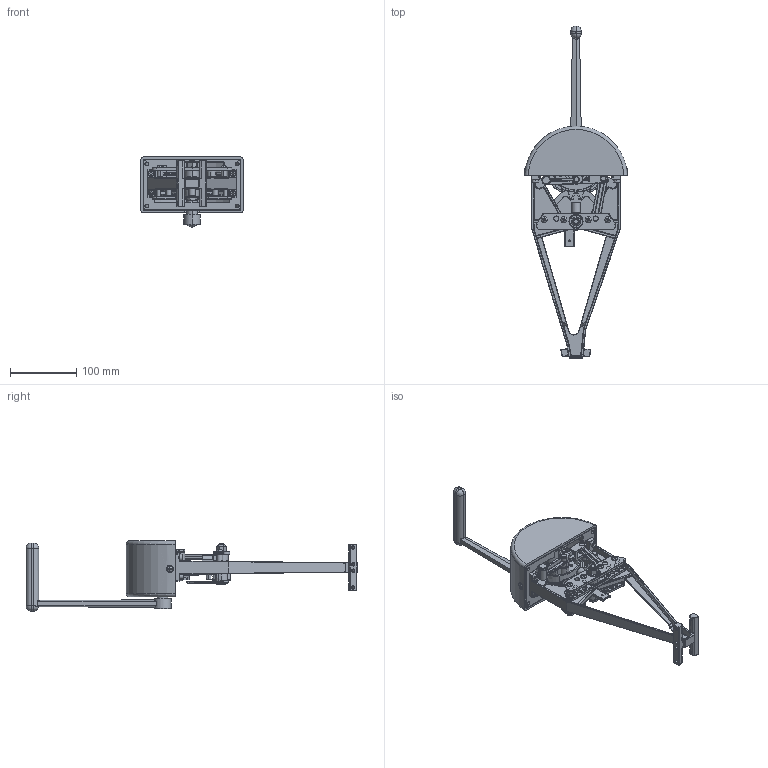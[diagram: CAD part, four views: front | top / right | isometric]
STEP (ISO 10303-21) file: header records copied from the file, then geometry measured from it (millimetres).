
FILE_DESCRIPTION (( 'STEP AP203' ), '1' );
FILE_NAME ('2046-KY.STEP', '2024-05-16T19:49:40', ( '' ), ( '' ), 'SwSTEP 2.0', 'SolidWorks 2023', '' );
FILE_SCHEMA (( 'CONFIG_CONTROL_DESIGN' ));
Products named in the file (1): 2046-KY
Bounding box: 155.03 x 501.6 x 106.21 mm (x, y, z)
Surface area: 230133.5 mm2 (no closed solid volume)
Topology: 0 solids, 79 shells, 1611 faces, 5850 edges, 4095 vertices
Faces by surface type: cylinder 692, plane 435, torus 252, cone 125, bspline 85, sphere 22
Entity records: 69181 total; most frequent: CARTESIAN_POINT 20942, DIRECTION 10755, ORIENTED_EDGE 8606, EDGE_CURVE 5812, AXIS2_PLACEMENT_3D 4198, VERTEX_POINT 4095, CIRCLE 2671, VECTOR 2359
